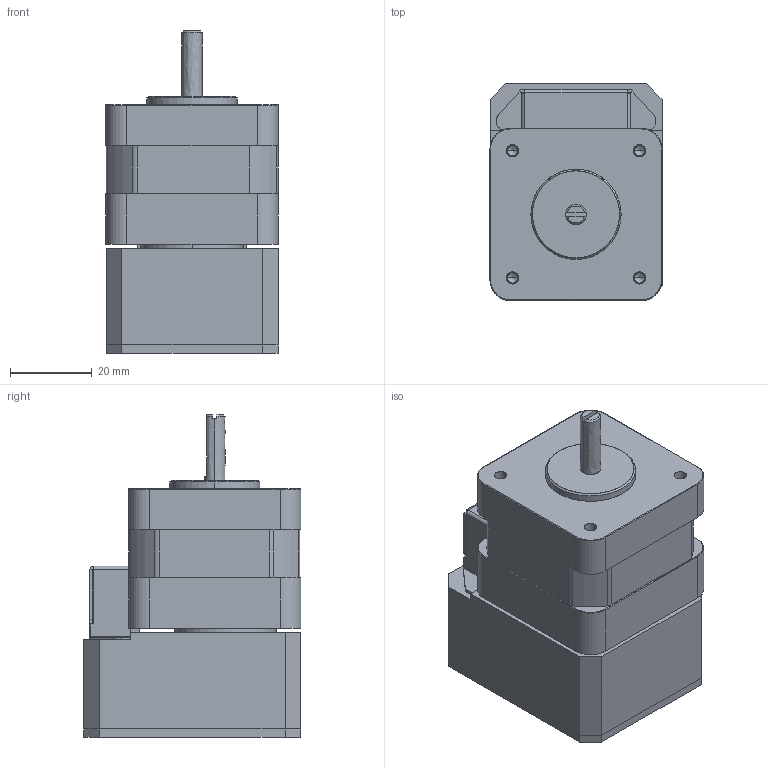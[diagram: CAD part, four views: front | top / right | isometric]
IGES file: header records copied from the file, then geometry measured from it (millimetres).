
Start section: SolidWorks IGES file using analytic representation for surfaces
Global section: file name: C:\Users\render\Documents\CAD Files\CM1 Series CAD\CM1-17S\CM1-X-17S30.IGS; native system: SolidWorks 2009; preprocessor: SolidWorks 2009; author: render; date: 100513.150951; units: millimetre
Bounding box: 42.03 x 53.15 x 78.71 mm (x, y, z)
Surface area: 40387.6 mm2 (no closed solid volume)
Topology: 0 solids, 0 shells, 760 faces, 6528 edges, 6520 vertices
Faces by surface type: bspline 576, revolution 184
